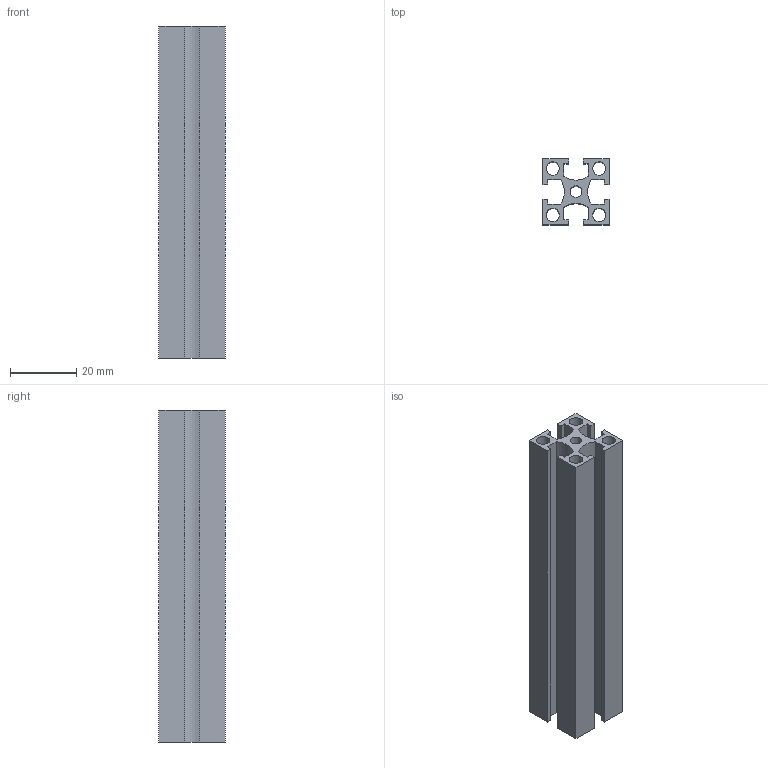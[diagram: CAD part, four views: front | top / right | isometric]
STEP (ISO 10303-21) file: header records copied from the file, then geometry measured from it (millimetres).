
FILE_DESCRIPTION(/* description */ ('Unknown'),/* implementation_level */ '2;1');
FILE_NAME(/* name */ 'NM2020',/* time_stamp */ '2026-08-31T11:04:51+08:00',/* author */ ('Unknown'),/* organization */ ('Unknown'),/* preprocessor_version */ 'ST-DEVELOPER v16.7',/* originating_system */ 'DEX',/* authorisation */ $);
FILE_SCHEMA (('AUTOMOTIVE_DESIGN {1 0 10303 214 3 1 1}'));
Length unit declared in the file: millimetre
Products named in the file (1): 2020-
Bounding box: 20 x 20 x 100 mm (x, y, z)
Volume: 17454.8 mm3; surface area: 21320.3 mm2
Topology: 1 solids, 1 shells, 43 faces, 123 edges, 82 vertices
Faces by surface type: plane 34, cylinder 9
Full cylindrical faces by diameter (mm): 3.5 x1, 4 x4
Entity records: 1420 total; most frequent: CARTESIAN_POINT 244, ORIENTED_EDGE 236, DIRECTION 224, EDGE_CURVE 118, LINE 100, VECTOR 100, VERTEX_POINT 82, AXIS2_PLACEMENT_3D 62
